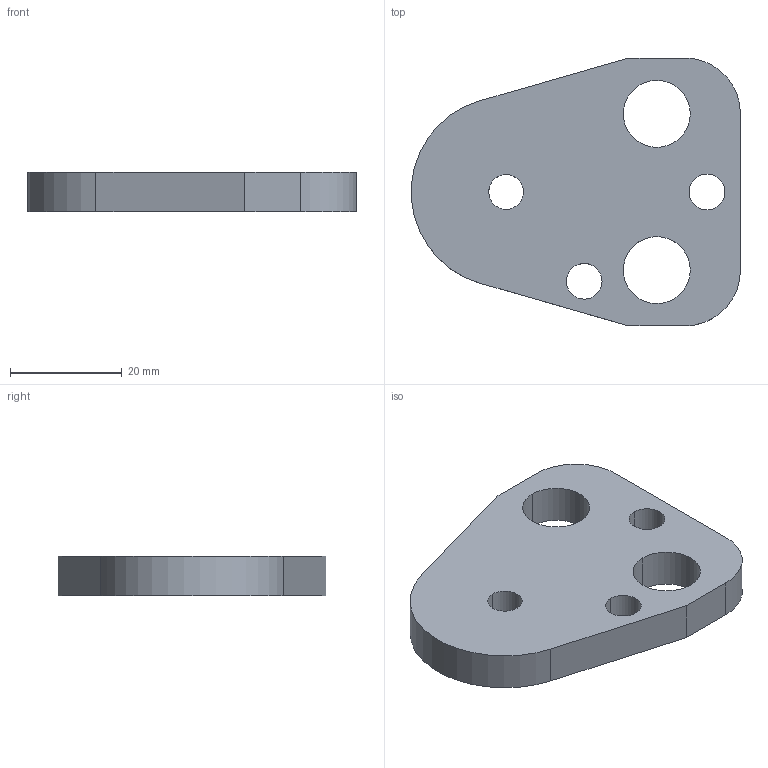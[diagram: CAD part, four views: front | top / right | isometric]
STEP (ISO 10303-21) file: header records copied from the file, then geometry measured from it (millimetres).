
FILE_DESCRIPTION(/* description */ (''),/* implementation_level */ '2;1');
FILE_NAME(/* name */ '3d_bpc20-7_03425_r00.stp',/* time_stamp */ '2011-01-10T14:17:10+09:00',/* author */ ('MISUMI'),/* organization */ (''),/* preprocessor_version */ 'ST-DEVELOPER v11',/* originating_system */ 'UGS - NX 5.0',/* authorisation */ '');
FILE_SCHEMA (('CONFIG_CONTROL_DESIGN'));
Length unit declared in the file: millimetre
Products named in the file (1): 3d_bpc20-7_03425_r00
Bounding box: 58.94 x 48 x 7 mm (x, y, z)
Volume: 13787.1 mm3; surface area: 6136.8 mm2
Topology: 1 solids, 1 shells, 20 faces, 54 edges, 36 vertices
Faces by surface type: cylinder 13, plane 7
Entity records: 750 total; most frequent: DIRECTION 122, CARTESIAN_POINT 111, ORIENTED_EDGE 108, EDGE_CURVE 54, AXIS2_PLACEMENT_3D 47, VERTEX_POINT 36, EDGE_LOOP 30, LINE 28
